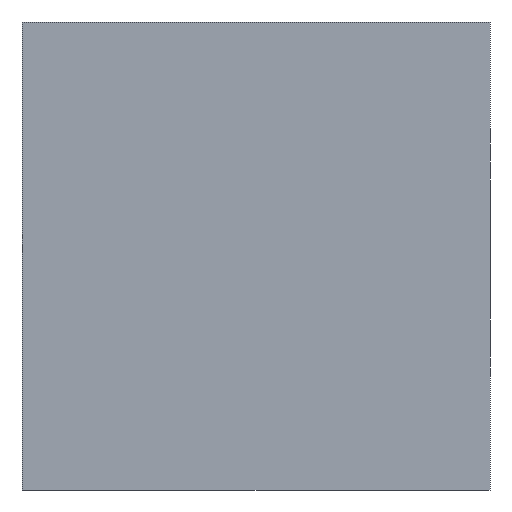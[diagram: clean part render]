
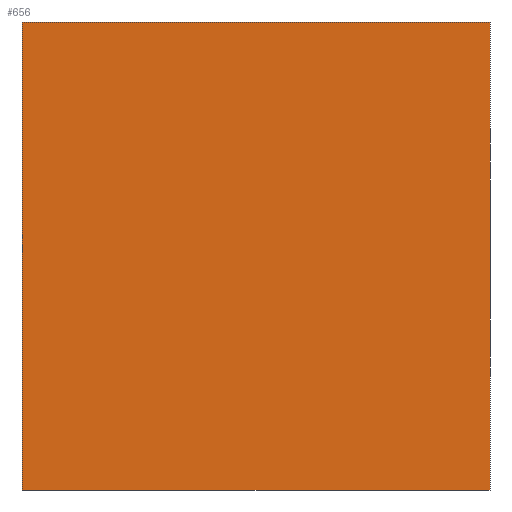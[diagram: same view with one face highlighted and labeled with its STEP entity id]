
A CAD part, left-side view. The second image highlights one B-rep face of the part: STEP entity #656.
In plain terms, the highlighted planar face has unit normal (-1, 0, 0).
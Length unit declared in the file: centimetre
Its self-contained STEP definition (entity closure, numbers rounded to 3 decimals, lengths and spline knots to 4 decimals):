
#8 = CARTESIAN_POINT ( 'NONE',  ( 0., 1000., 1000. ) ) ;
#47 = EDGE_CURVE ( 'NONE', #60, #222, #556, .T. ) ;
#52 = ORIENTED_EDGE ( 'NONE', *, *, #161, .F. ) ;
#53 = CARTESIAN_POINT ( 'NONE',  ( 0., 0., 1000. ) ) ;
#60 = VERTEX_POINT ( 'NONE', #343 ) ;
#65 = ORIENTED_EDGE ( 'NONE', *, *, #47, .T. ) ;
#69 = CARTESIAN_POINT ( 'NONE',  ( 0., 0., 0. ) ) ;
#77 = CARTESIAN_POINT ( 'NONE',  ( 0., 0., 1000. ) ) ;
#81 = DIRECTION ( 'NONE',  ( 0., 0., -1. ) ) ;
#157 = CARTESIAN_POINT ( 'NONE',  ( 0., 1000., 0. ) ) ;
#161 = EDGE_CURVE ( 'NONE', #245, #566, #205, .T. ) ;
#162 = LINE ( 'NONE', #8, #240 ) ;
#205 = LINE ( 'NONE', #77, #260 ) ;
#222 = VERTEX_POINT ( 'NONE', #157 ) ;
#240 = VECTOR ( 'NONE', #367, 100. ) ;
#245 = VERTEX_POINT ( 'NONE', #53 ) ;
#260 = VECTOR ( 'NONE', #462, 100. ) ;
#265 = ORIENTED_EDGE ( 'NONE', *, *, #300, .T. ) ;
#277 = EDGE_CURVE ( 'NONE', #60, #245, #162, .T. ) ;
#279 = DIRECTION ( 'NONE',  ( 0., 0., -1. ) ) ;
#282 = CARTESIAN_POINT ( 'NONE',  ( 0., 1000., 0. ) ) ;
#295 = CARTESIAN_POINT ( 'NONE',  ( 0., 1000., 1000. ) ) ;
#300 = EDGE_CURVE ( 'NONE', #222, #566, #328, .T. ) ;
#328 = LINE ( 'NONE', #282, #510 ) ;
#343 = CARTESIAN_POINT ( 'NONE',  ( 0., 1000., 1000. ) ) ;
#357 = EDGE_LOOP ( 'NONE', ( #265, #52, #409, #65 ) ) ;
#367 = DIRECTION ( 'NONE',  ( 0., -1., 0. ) ) ;
#381 = DIRECTION ( 'NONE',  ( 0., -1., 0. ) ) ;
#398 = AXIS2_PLACEMENT_3D ( 'NONE', #547, #580, #279 ) ;
#409 = ORIENTED_EDGE ( 'NONE', *, *, #277, .F. ) ;
#438 = FACE_OUTER_BOUND ( 'NONE', #357, .T. ) ;
#462 = DIRECTION ( 'NONE',  ( 0., 0., -1. ) ) ;
#510 = VECTOR ( 'NONE', #381, 100. ) ;
#543 = VECTOR ( 'NONE', #81, 100. ) ;
#547 = CARTESIAN_POINT ( 'NONE',  ( 0., 1000., 1000. ) ) ;
#556 = LINE ( 'NONE', #295, #543 ) ;
#566 = VERTEX_POINT ( 'NONE', #69 ) ;
#580 = DIRECTION ( 'NONE',  ( 1., 0., 0. ) ) ;
#632 = PLANE ( 'NONE',  #398 ) ;
#656 = ADVANCED_FACE ( 'NONE', ( #438 ), #632, .F. ) ;
